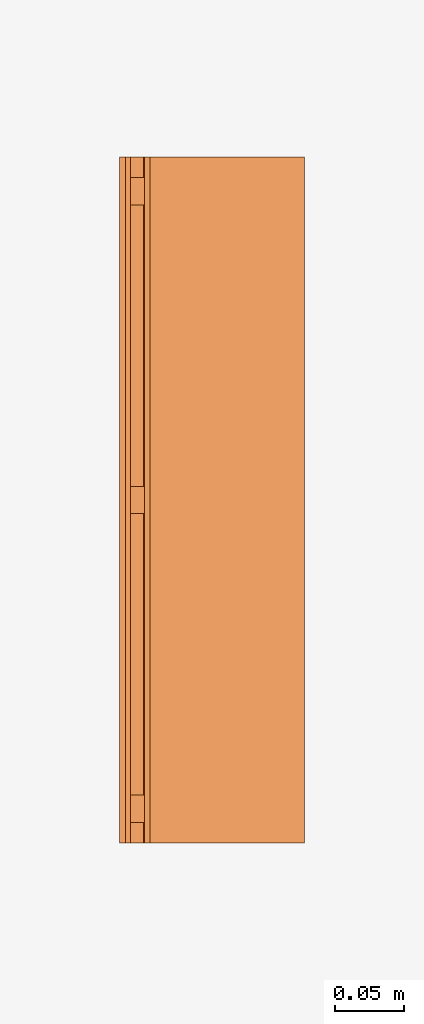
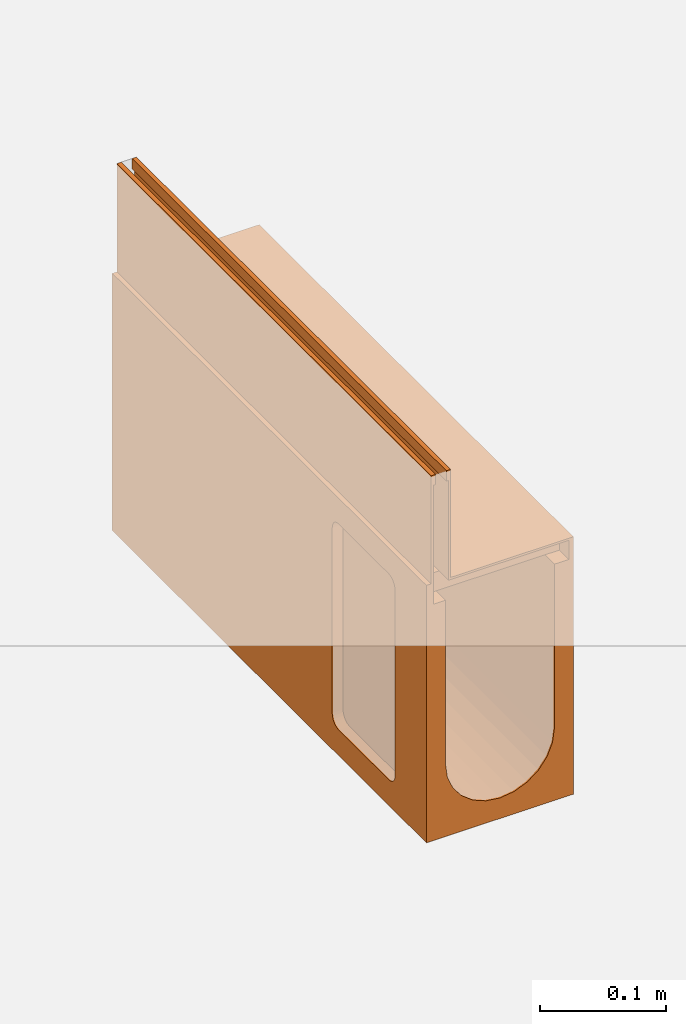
# One storey, part 2 of 2: 1 proxy.
"""IFC2X3 building model written with IfcOpenShell, lengths in millimetres."""

from ifc_helpers import new_model, entity, si_unit, converted_unit, direction, frame, origin, place, context, subcontext, project, spatial, faceted_brep, source, transform, mapped, material, material_list, element, save


model = new_model("IFC2X3")

# Units and contexts
model_context = context("Model", 3, precision=1e-06, world=origin(), true_north=direction((2.0, 6.12303176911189e-17, 1.0)))
context_of_model = context(None, 3, precision=1e-06, world=origin(), true_north=direction((2.0, 6.12303176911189e-17, 1.0)))
body_context = subcontext(model_context, "Body", "Model", "MODEL_VIEW")
ifc_project = project(units=[si_unit("LENGTHUNIT", "METRE", prefix="MILLI"), si_unit("AREAUNIT", "SQUARE_METRE", prefix="MILLI"), si_unit("VOLUMEUNIT", "CUBIC_METRE", prefix="MILLI"), converted_unit("PLANEANGLEUNIT", "DEGREE", entity("IfcRatioMeasure", 0.0174532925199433), si_unit("PLANEANGLEUNIT", "RADIAN"), dimensions=[0, 0, 0, 0, 0, 0, 0]), si_unit("TIMEUNIT", "SECOND")], contexts=[model_context, context_of_model])

# Site, building, storey
site_placement = place(None, origin())
site = spatial("IfcSite", under=ifc_project, at=site_placement, Name="Default", CompositionType="ELEMENT")
building_placement = place(site_placement, origin())
building = spatial("IfcBuilding", under=site, at=building_placement, CompositionType="ELEMENT")
storey_placement = place(building_placement, origin())
storey = spatial("IfcBuildingStorey", under=building, at=storey_placement, Name="Level 1", CompositionType="ELEMENT", Elevation=0.0)

# Proxy
ifc_material_1 = material(Name="Stainless Steel (F)")
ifc_material_2 = material(Name="Vienite® Synthetic Resin Concrete")
ifc_material_list = material_list([ifc_material_1, ifc_material_2])
shared_shape = source(origin(), body_context, "Body", "Brep", [
    faceted_brep([(63.249999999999, 15.0, -107.0), (63.249999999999, 17.0, -109.0), (63.249999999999, 33.0, -109.0), (63.249999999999, 35.0, -107.0), (63.249999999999, 17.0, -123.499999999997), (63.249999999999, 15.0, -125.499999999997), (63.249999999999, 33.0, -123.499999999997), (63.249999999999, 35.0, -125.499999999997), (-61.250000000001, 15.0, -125.499999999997), (-61.250000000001, 17.0, -123.499999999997), (-61.250000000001, 33.0, -123.499999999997), (-61.250000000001, 35.0, -125.499999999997), (-61.250000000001, 17.0, -109.0), (-61.250000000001, 15.0, -107.0), (-61.250000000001, 33.0, -109.0), (-61.250000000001, 35.0, -107.0)], [[[0, 1, 2, 3]], [[4, 1, 0, 5]], [[3, 2, 6, 7]], [[6, 4, 5, 7]], [[8, 9, 10, 11]], [[12, 9, 8, 13]], [[11, 10, 14, 15]], [[14, 12, 13, 15]], [[5, 0, 13, 8]], [[7, 5, 8, 11]], [[3, 7, 11, 15]], [[0, 3, 15, 13]], [[1, 4, 9, 12]], [[14, 2, 1, 12]], [[6, 2, 14, 10]], [[9, 4, 6, 10]]]),
    faceted_brep([(63.2499999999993, 240.0, -107.0), (63.2499999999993, 242.0, -109.0), (63.2499999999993, 258.0, -109.0), (63.2499999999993, 260.0, -107.0), (63.2499999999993, 242.0, -123.499999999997), (63.2499999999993, 240.0, -125.499999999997), (63.2499999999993, 258.0, -123.499999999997), (63.2499999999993, 260.0, -125.499999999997), (-61.2500000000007, 240.0, -125.499999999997), (-61.2500000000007, 242.0, -123.499999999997), (-61.2500000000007, 258.0, -123.499999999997), (-61.2500000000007, 260.0, -125.499999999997), (-61.2500000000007, 242.0, -109.0), (-61.2500000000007, 240.0, -107.0), (-61.2500000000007, 258.0, -109.0), (-61.2500000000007, 260.0, -107.0)], [[[0, 1, 2, 3]], [[4, 1, 0, 5]], [[3, 2, 6, 7]], [[6, 4, 5, 7]], [[8, 9, 10, 11]], [[12, 9, 8, 13]], [[11, 10, 14, 15]], [[14, 12, 13, 15]], [[5, 0, 13, 8]], [[7, 5, 8, 11]], [[3, 7, 11, 15]], [[0, 3, 15, 13]], [[1, 4, 9, 12]], [[2, 1, 12, 14]], [[6, 2, 14, 10]], [[4, 6, 10, 9]]]),
    faceted_brep([(63.2499999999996, 465.0, -107.0), (63.2499999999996, 467.0, -109.0), (63.2499999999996, 483.0, -109.0), (63.2499999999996, 485.0, -107.0), (63.2499999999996, 467.0, -123.499999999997), (63.2499999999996, 465.0, -125.499999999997), (63.2499999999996, 483.0, -123.499999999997), (63.2499999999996, 485.0, -125.499999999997), (-61.2500000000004, 465.0, -125.499999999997), (-61.2500000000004, 467.0, -123.499999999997), (-61.2500000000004, 483.0, -123.499999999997), (-61.2500000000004, 485.0, -125.499999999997), (-61.2500000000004, 467.0, -109.0), (-61.2500000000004, 465.0, -107.0), (-61.2500000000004, 483.0, -109.0), (-61.2500000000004, 485.0, -107.0)], [[[0, 1, 2, 3]], [[4, 1, 0, 5]], [[3, 2, 6, 7]], [[6, 4, 5, 7]], [[8, 9, 10, 11]], [[12, 9, 8, 13]], [[11, 10, 14, 15]], [[14, 12, 13, 15]], [[5, 0, 13, 8]], [[7, 5, 8, 11]], [[3, 7, 11, 15]], [[0, 3, 15, 13]], [[1, 4, 9, 12]], [[2, 1, 12, 14]], [[6, 2, 14, 10]], [[4, 6, 10, 9]]]),
    faceted_brep([(-47.2500000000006, 0.0, -10.0), (-47.2500000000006, 0.0, -107.0), (-45.2500000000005, 0.0, -105.0), (-45.2500000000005, 0.0, 0.0), (-49.2500000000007, 0.0, 0.0), (-49.2500000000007, 0.0, -10.0), (63.2499999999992, 0.0, -107.0), (63.2499999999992, 0.0, -105.0), (-45.2500000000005, 500.0, -105.0), (63.2499999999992, 500.0, -105.0), (63.2499999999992, 500.0, -107.0), (-47.2500000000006, 500.0, -107.0), (-47.2500000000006, 500.0, -10.0), (-45.2500000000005, 500.0, 0.0), (-49.2500000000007, 500.0, -10.0), (-49.2500000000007, 500.0, 0.0)], [[[0, 1, 2, 3]], [[4, 5, 0, 3]], [[6, 7, 2, 1]], [[8, 9, 10, 11]], [[12, 13, 8, 11]], [[12, 14, 15, 13]], [[12, 0, 5, 14]], [[1, 0, 12, 11]], [[6, 1, 11, 10]], [[9, 7, 6, 10]], [[8, 2, 7, 9]], [[3, 2, 8, 13]], [[4, 3, 13, 15]], [[5, 4, 15, 14]]]),
    faceted_brep([(-59.2500000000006, 500.0, 0.0), (-59.2500000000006, 500.0, -10.0), (-61.2500000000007, 500.0, -10.0), (-63.2500000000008, 500.0, 0.0), (-63.2500000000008, 500.0, -125.5), (-61.2500000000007, 500.0, -125.5), (-61.2500000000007, 0.0, -10.0), (-63.2500000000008, 0.0, 0.0), (-63.2500000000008, 0.0, -125.5), (-61.2500000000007, 0.0, -125.5), (-59.2500000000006, 0.0, 0.0), (-59.2500000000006, 0.0, -10.0)], [[[0, 1, 2, 3]], [[4, 3, 2, 5]], [[6, 7, 8, 9]], [[10, 7, 6, 11]], [[5, 9, 8, 4]], [[6, 9, 5, 2]], [[1, 11, 6, 2]], [[10, 11, 1, 0]], [[7, 10, 0, 3]], [[4, 8, 7, 3]]]),
    faceted_brep([(63.2499999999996, 500.0, -125.500000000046), (63.2499999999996, 500.0, -105.0), (67.4999999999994, 500.0, -105.0), (67.4999999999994, 500.0, -355.0), (50.0, 500.0, -285.0), (50.0, 500.0, -125.499999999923), (-67.5000000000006, 500.0, -105.0), (-63.2500000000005, 500.0, -105.0), (-63.2500000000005, 500.0, -125.500000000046), (-67.5000000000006, 500.0, -355.0), (-50.0, 500.0, -125.500000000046), (-50.0, 500.0, -285.0), (48.296291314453, 500.0, -297.940952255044), (35.3553390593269, 500.0, -320.355339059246), (43.3012701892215, 500.0, -310.0), (25.0, 500.0, -328.30127018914), (0.0, 500.0, -335.0), (12.9409522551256, 500.0, -333.296291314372), (-43.3012701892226, 500.0, -310.0), (-35.355339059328, 500.0, -320.355339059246), (-48.2962913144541, 500.0, -297.940952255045), (-25.0, 500.0, -328.30127018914), (-12.9409522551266, 500.0, -333.296291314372), (67.4999999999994, 0.0, -355.0), (12.9409522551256, 0.0, -333.296291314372), (0.0, 0.0, -335.0), (25.0, 0.0, -328.30127018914), (35.3553390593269, 0.0, -320.355339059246), (43.3012701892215, 0.0, -310.0), (48.296291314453, 0.0, -297.940952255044), (-12.9409522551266, 0.0, -333.296291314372), (-67.5000000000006, 0.0, -355.0), (-25.0, 0.0, -328.30127018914), (-35.355339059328, 0.0, -320.355339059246), (-43.3012701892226, 0.0, -310.0), (-48.2962913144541, 0.0, -297.940952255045), (50.0, 0.0, -285.0), (63.2499999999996, 0.0, -125.500000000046), (50.0, 0.0, -125.499999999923), (67.4999999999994, 0.0, -105.0), (63.2499999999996, 0.0, -105.0), (-50.0, 0.0, -285.0), (-50.0, 0.0, -125.500000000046), (-63.2500000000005, 0.0, -125.500000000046), (-63.2500000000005, 0.0, -105.0), (-67.5000000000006, 0.0, -105.0), (-67.5000000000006, 51.3397459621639, -135.0), (-67.5000000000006, 50.3407417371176, -137.411809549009), (-67.5000000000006, 52.9289321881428, -132.928932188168), (-67.5000000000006, 50.0, -140.0), (-67.5000000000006, 50.0, -320.0), (-67.5000000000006, 60.0, -130.0), (-67.5000000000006, 57.4118095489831, -130.340741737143), (-67.5000000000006, 55.0, -131.339745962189), (-67.5000000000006, 140.0, -130.0), (-67.5000000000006, 50.3407417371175, -322.588190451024), (-67.5000000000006, 51.3397459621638, -325.0), (-67.5000000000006, 52.9289321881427, -327.071067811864), (-67.5000000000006, 55.0, -328.660254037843), (-67.5000000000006, 57.4118095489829, -329.659258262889), (-67.5000000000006, 60.0, -330.0), (-67.5000000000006, 140.0, -330.0), (-67.5000000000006, 142.588190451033, -130.340741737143), (-67.5000000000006, 147.071067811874, -132.928932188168), (-67.5000000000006, 145.0, -131.339745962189), (-67.5000000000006, 148.660254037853, -135.0), (-67.5000000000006, 149.659258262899, -137.411809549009), (-67.5000000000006, 150.0, -140.0), (-67.5000000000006, 145.0, -328.660254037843), (-67.5000000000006, 147.071067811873, -327.071067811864), (-67.5000000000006, 142.588190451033, -329.659258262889), (-67.5000000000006, 149.659258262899, -322.588190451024), (-67.5000000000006, 150.0, -320.0), (-67.5000000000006, 148.660254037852, -325.0), (67.4999999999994, 51.3397459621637, -325.0), (67.4999999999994, 50.3407417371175, -322.588190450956), (67.4999999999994, 52.9289321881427, -327.071067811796), (67.4999999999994, 50.0, -320.0), (67.4999999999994, 50.0, -140.0), (67.4999999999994, 60.0, -330.0), (67.4999999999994, 57.4118095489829, -329.659258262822), (67.4999999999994, 55.0, -328.660254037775), (67.4999999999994, 140.0, -330.0), (67.4999999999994, 50.3407417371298, -137.411809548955), (67.4999999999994, 51.3397459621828, -135.0), (67.4999999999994, 52.9289321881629, -132.92893218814), (67.4999999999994, 55.0, -131.339745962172), (67.4999999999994, 57.4118095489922, -130.340741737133), (67.4999999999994, 60.0, -130.0), (67.4999999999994, 140.0, -130.0), (67.4999999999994, 142.588190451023, -329.659258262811), (67.4999999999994, 147.071067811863, -327.071067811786), (67.4999999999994, 145.0, -328.660254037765), (67.4999999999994, 148.660254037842, -325.0), (67.4999999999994, 149.659258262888, -322.588190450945), (67.4999999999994, 150.0, -320.0), (67.4999999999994, 145.0, -131.339745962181), (67.4999999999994, 147.071067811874, -132.92893218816), (67.4999999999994, 142.588190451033, -130.340741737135), (67.4999999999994, 149.659258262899, -137.411809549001), (67.4999999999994, 150.0, -140.0), (67.4999999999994, 148.660254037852, -135.0), (57.4999999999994, 140.0, -330.0), (57.4999999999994, 149.659258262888, -322.588190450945), (57.4999999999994, 150.0, -320.0), (57.4999999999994, 50.0, -320.0), (57.4999999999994, 147.071067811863, -327.071067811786), (57.4999999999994, 148.660254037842, -325.0), (57.4999999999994, 142.588190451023, -329.659258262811), (57.4999999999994, 145.0, -328.660254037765), (57.4999999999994, 150.0, -140.0), (57.4999999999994, 50.0, -140.0), (57.4999999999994, 149.659258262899, -137.411809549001), (57.4999999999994, 148.660254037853, -135.0), (57.4999999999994, 147.071067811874, -132.92893218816), (57.4999999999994, 140.0, -130.0), (57.4999999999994, 145.0, -131.339745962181), (57.4999999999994, 142.588190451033, -130.340741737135), (57.4999999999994, 60.0, -130.0), (57.4999999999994, 55.0, -328.660254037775), (57.4999999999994, 57.4118095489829, -329.659258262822), (57.4999999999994, 60.0, -330.0), (57.4999999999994, 52.9289321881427, -327.071067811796), (57.4999999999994, 50.3407417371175, -322.588190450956), (57.4999999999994, 51.3397459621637, -325.0), (57.4999999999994, 57.411809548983, -130.340741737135), (57.4999999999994, 55.0, -131.339745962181), (57.4999999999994, 51.3397459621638, -135.0), (57.4999999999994, 50.3407417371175, -137.411809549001), (57.4999999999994, 52.9289321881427, -132.92893218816), (-57.5000000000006, 55.0, -131.339745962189), (-57.5000000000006, 57.4118095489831, -130.340741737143), (-57.5000000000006, 60.0, -130.0), (-57.5000000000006, 50.0, -140.0), (-57.5000000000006, 50.3407417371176, -137.411809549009), (-57.5000000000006, 51.3397459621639, -135.0), (-57.5000000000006, 52.9289321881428, -132.928932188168), (-57.5000000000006, 150.0, -140.0), (-57.5000000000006, 140.0, -130.0), (-57.5000000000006, 142.588190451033, -130.340741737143), (-57.5000000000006, 145.0, -131.339745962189), (-57.5000000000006, 148.660254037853, -135.0), (-57.5000000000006, 147.071067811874, -132.928932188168), (-57.5000000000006, 149.659258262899, -137.411809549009), (-57.5000000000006, 150.0, -320.0), (-57.5000000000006, 50.0, -320.0), (-57.5000000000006, 50.3407417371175, -322.588190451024), (-57.5000000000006, 57.4118095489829, -329.659258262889), (-57.5000000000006, 55.0, -328.660254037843), (-57.5000000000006, 52.9289321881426, -327.071067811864), (-57.5000000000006, 51.3397459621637, -325.0), (-57.5000000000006, 60.0, -330.0), (-57.5000000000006, 140.0, -330.0), (-57.5000000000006, 149.659258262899, -322.588190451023), (-57.5000000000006, 148.660254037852, -325.0), (-57.5000000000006, 145.0, -328.660254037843), (-57.5000000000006, 142.588190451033, -329.659258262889), (-57.5000000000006, 147.071067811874, -327.071067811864)], [[[0, 1, 2, 3]], [[4, 5, 0, 3]], [[6, 7, 8, 9]], [[8, 10, 11, 9]], [[4, 3, 12]], [[13, 14, 3]], [[15, 13, 3]], [[16, 17, 3, 9]], [[3, 17, 15]], [[14, 12, 3]], [[18, 19, 9]], [[20, 18, 9]], [[21, 22, 9]], [[9, 22, 16]], [[21, 9, 19]], [[20, 9, 11]], [[23, 24, 25]], [[24, 23, 26]], [[27, 26, 23]], [[28, 27, 23]], [[23, 29, 28]], [[25, 30, 31, 23]], [[31, 30, 32]], [[33, 34, 31]], [[32, 33, 31]], [[31, 34, 35]], [[36, 29, 23]], [[37, 38, 36, 23]], [[39, 40, 37, 23]], [[41, 42, 43, 31]], [[35, 41, 31]], [[43, 44, 45, 31]], [[7, 44, 43, 8]], [[45, 44, 7, 6]], [[45, 46, 47]], [[46, 45, 48]], [[47, 49, 45]], [[45, 49, 50]], [[51, 52, 45]], [[53, 48, 45]], [[52, 53, 45]], [[54, 51, 45, 6]], [[50, 55, 31, 45]], [[31, 56, 57]], [[56, 31, 55]], [[57, 58, 31]], [[59, 60, 31]], [[58, 59, 31]], [[31, 60, 61]], [[62, 54, 6]], [[63, 64, 6]], [[62, 6, 64]], [[65, 6, 66]], [[6, 65, 63]], [[67, 66, 6, 9]], [[68, 69, 9]], [[61, 70, 9, 31]], [[68, 9, 70]], [[71, 72, 9]], [[73, 9, 69]], [[9, 73, 71]], [[72, 67, 9]], [[23, 31, 9, 3]], [[23, 74, 75]], [[74, 23, 76]], [[75, 77, 23]], [[23, 77, 78]], [[79, 80, 23]], [[81, 76, 23]], [[80, 81, 23]], [[82, 79, 23, 3]], [[78, 83, 39, 23]], [[39, 84, 85]], [[84, 39, 83]], [[85, 86, 39]], [[87, 88, 39]], [[86, 87, 39]], [[39, 88, 89]], [[90, 82, 3]], [[91, 92, 3]], [[90, 3, 92]], [[93, 3, 94]], [[3, 93, 91]], [[95, 94, 3, 2]], [[96, 97, 2]], [[89, 98, 2, 39]], [[96, 2, 98]], [[99, 100, 2]], [[101, 2, 97]], [[2, 101, 99]], [[100, 95, 2]], [[40, 39, 2, 1]], [[0, 37, 40, 1]], [[5, 38, 37, 0]], [[4, 36, 38, 5]], [[14, 28, 29, 12]], [[12, 29, 36, 4]], [[15, 26, 27, 13]], [[13, 27, 28, 14]], [[17, 24, 26, 15]], [[24, 17, 16, 25]], [[21, 32, 30, 22]], [[19, 33, 32, 21]], [[20, 35, 34, 18]], [[18, 34, 33, 19]], [[11, 41, 35, 20]], [[22, 30, 25, 16]], [[10, 42, 41, 11]], [[43, 42, 10, 8]], [[102, 103, 104, 105]], [[106, 107, 103, 102]], [[106, 102, 108, 109]], [[105, 104, 110, 111]], [[112, 113, 114, 110]], [[115, 114, 116, 117]], [[110, 114, 115, 118]], [[119, 120, 121, 122]], [[123, 124, 122, 105]], [[105, 122, 121, 102]], [[118, 125, 126, 111]], [[127, 128, 111, 129]], [[126, 129, 111]], [[118, 111, 110]], [[128, 83, 78, 111]], [[127, 84, 83, 128]], [[84, 127, 129, 85]], [[126, 86, 85, 129]], [[125, 87, 86, 126]], [[87, 125, 118, 88]], [[88, 118, 115, 89]], [[117, 98, 89, 115]], [[116, 96, 98, 117]], [[96, 116, 114, 97]], [[113, 101, 97, 114]], [[112, 99, 101, 113]], [[99, 112, 110, 100]], [[100, 110, 104, 95]], [[103, 94, 95, 104]], [[107, 93, 94, 103]], [[93, 107, 106, 91]], [[109, 92, 91, 106]], [[108, 90, 92, 109]], [[90, 108, 102, 82]], [[102, 121, 79, 82]], [[120, 80, 79, 121]], [[119, 81, 80, 120]], [[81, 119, 122, 76]], [[124, 74, 76, 122]], [[123, 75, 74, 124]], [[75, 123, 105, 77]], [[105, 111, 78, 77]], [[130, 131, 132, 133]], [[130, 133, 134, 135]], [[130, 135, 136]], [[137, 133, 132, 138]], [[139, 140, 141, 138]], [[141, 140, 142]], [[138, 141, 143, 137]], [[133, 137, 144, 145]], [[146, 145, 147, 148]], [[149, 150, 146, 148]], [[151, 147, 145, 152]], [[153, 154, 152, 144]], [[155, 156, 152, 154]], [[155, 154, 157]], [[152, 145, 144]], [[131, 52, 51, 132]], [[130, 53, 52, 131]], [[53, 130, 136, 48]], [[135, 46, 48, 136]], [[134, 47, 46, 135]], [[47, 134, 133, 49]], [[138, 132, 51, 54]], [[143, 66, 67, 137]], [[141, 65, 66, 143]], [[65, 141, 142, 63]], [[140, 64, 63, 142]], [[139, 62, 64, 140]], [[62, 139, 138, 54]], [[72, 144, 137, 67]], [[156, 70, 61, 152]], [[155, 68, 70, 156]], [[68, 155, 157, 69]], [[154, 73, 69, 157]], [[153, 71, 73, 154]], [[71, 153, 144, 72]], [[60, 151, 152, 61]], [[146, 55, 50, 145]], [[150, 56, 55, 146]], [[56, 150, 149, 57]], [[148, 58, 57, 149]], [[147, 59, 58, 148]], [[59, 147, 151, 60]], [[49, 133, 145, 50]]]),
])
proxy_placement = place(storey_placement, frame((0.0, -230.0, 0.0)))
element("IfcBuildingElementProxy", 1, at=proxy_placement, inside=storey, material=ifc_material_list, Name="Civil-Drainage-Channel-ACO-MultiDrain-M100DS-Brickslot-Channel-System:24201 - No 20.1J Constant Depth Channel - 500mm LG - Invert Depth 230mm:24201 - No 20.1J Constant Depth Channel - 500mm LG - Invert Depth 230mm", ObjectType="24201 - No 20.1J Constant Depth Channel - 500mm LG - Invert Depth 230mm", CompositionType="ELEMENT", context=body_context, shape_type="MappedRepresentation", body=[
    mapped(shared_shape, transform((0.0, 0.0, 0.0), scale=1.0)),
])

save(model, "model.ifc")
